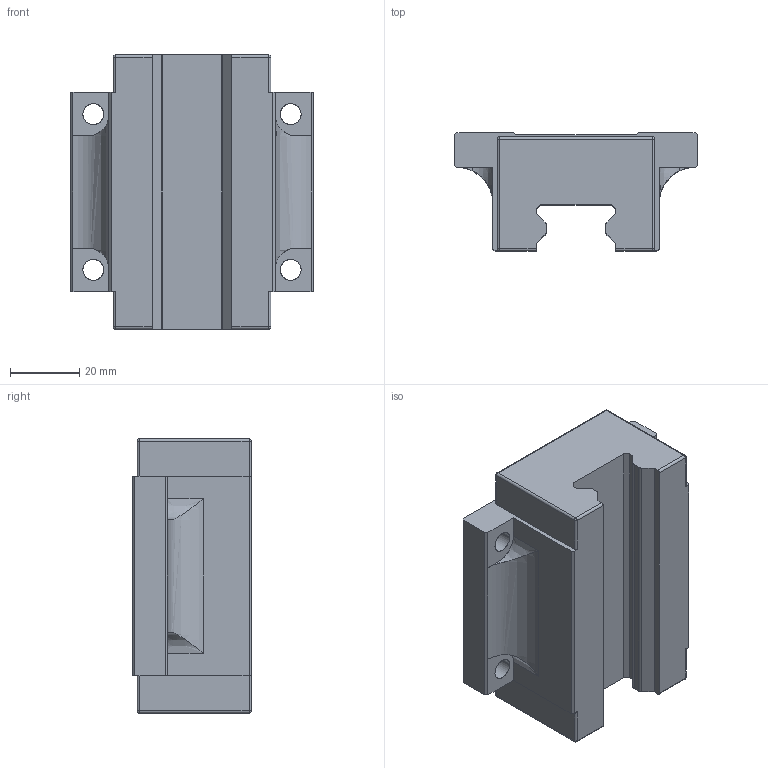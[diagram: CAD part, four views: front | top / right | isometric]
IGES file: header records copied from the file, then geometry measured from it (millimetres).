
Start section: SolidWorks IGES file using analytic representation for surfaces
Global section: file name: C:\Users\IanO\Desktop\Temp File\GENERAL\L1016_v2\L1016.F-BC_v2\L1016.F-BC_v2_20190612_IGES\Default.igs; native system: SolidWorks 2017; preprocessor: SolidWorks 2017; author: IanO; date: 190613.152120; units: millimetre
Bounding box: 70 x 34.2 x 79.2 mm (x, y, z)
Surface area: 20958.9 mm2 (no closed solid volume)
Topology: 0 solids, 0 shells, 92 faces, 892 edges, 884 vertices
Faces by surface type: bspline 48, revolution 44
